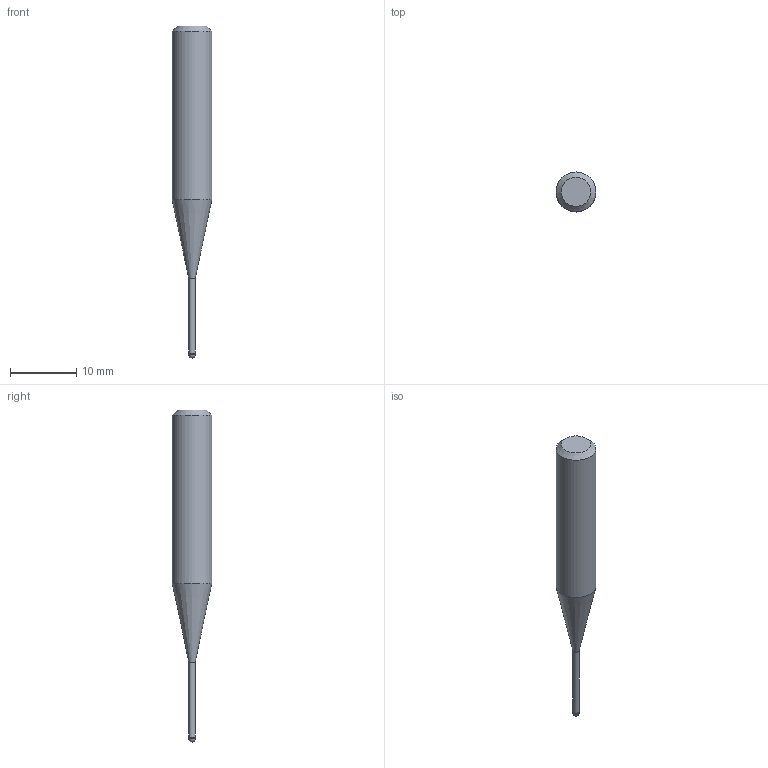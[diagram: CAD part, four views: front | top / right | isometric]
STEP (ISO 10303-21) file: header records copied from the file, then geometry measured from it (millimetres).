
FILE_DESCRIPTION((''),'2;1');
FILE_NAME('C:\Users\nsx150\AppData\Local\Temp\Mastercam 2021\3SYKECWX22\TEMP.step','2021-04-22T10:02:26',(''),(''),'STEP Write','Mastercam 2021 ... CNC Software, Inc.','');
FILE_SCHEMA(('AUTOMOTIVE_DESIGN'));
Length unit declared in the file: millimetre
Products named in the file (1): None
Bounding box: 6 x 6 x 50 mm (x, y, z)
Volume: 874 mm3; surface area: 681 mm2
Topology: 2 solids, 2 shells, 9 faces, 14 edges, 8 vertices
Faces by surface type: plane 3, cylinder 3, cone 2, sphere 1
Full cylindrical faces by diameter (mm): 0.95 x1, 1 x1, 6 x1
Entity records: 211 total; most frequent: DIRECTION 36, CARTESIAN_POINT 25, AXIS2_PLACEMENT_3D 18, ORIENTED_EDGE 14, EDGE_LOOP 14, STYLED_ITEM 12, ADVANCED_FACE 9, FACE_BOUND 8
